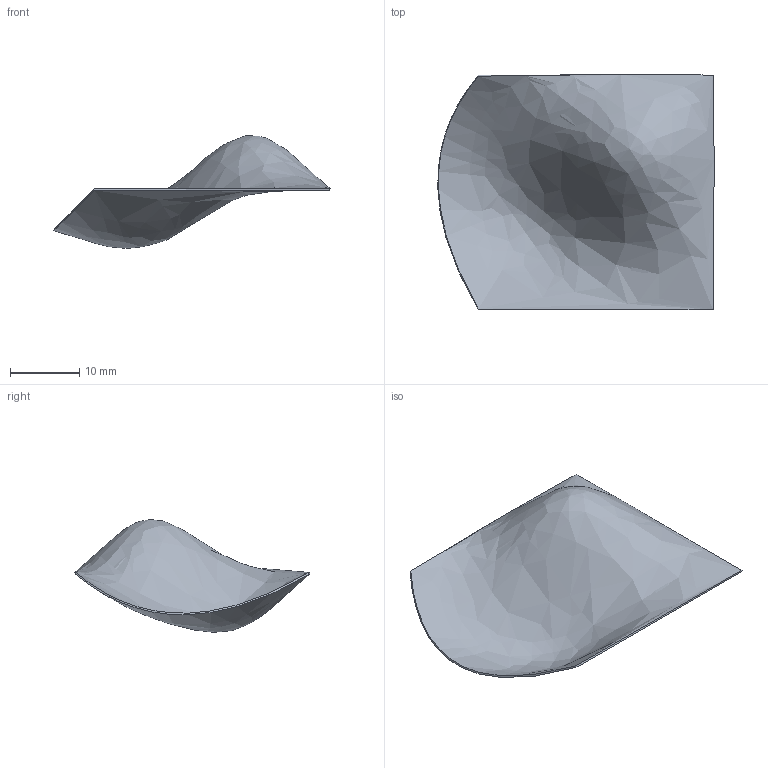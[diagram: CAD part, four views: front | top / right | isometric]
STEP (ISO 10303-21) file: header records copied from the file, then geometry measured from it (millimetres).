
FILE_DESCRIPTION(('Open CASCADE Model'),'2;1');
FILE_NAME('Open CASCADE Shape Model','2026-10-26T07:40:21',('Author'),( 'Open CASCADE'),'Open CASCADE STEP processor 7.9','Open CASCADE 7.9' ,'Unknown');
FILE_SCHEMA(('AUTOMOTIVE_DESIGN { 1 0 10303 214 1 1 1 1 }'));
Length unit declared in the file: millimetre
Products named in the file (1): Open CASCADE STEP translator 7.9 1
Bounding box: 39.98 x 34.1 x 16.29 mm (x, y, z)
Volume: 372.9 mm3; surface area: 3108.3 mm2
Topology: 1 solids, 1 shells, 6 faces, 12 edges, 8 vertices
Faces by surface type: bspline 5, offset 1
Entity records: 1503 total; most frequent: CARTESIAN_POINT 1289, ORIENTED_EDGE 24, PCURVE 24, DEFINITIONAL_REPRESENTATION 24, B_SPLINE_CURVE_WITH_KNOTS 20, DIRECTION 18, LINE 16, VECTOR 16
